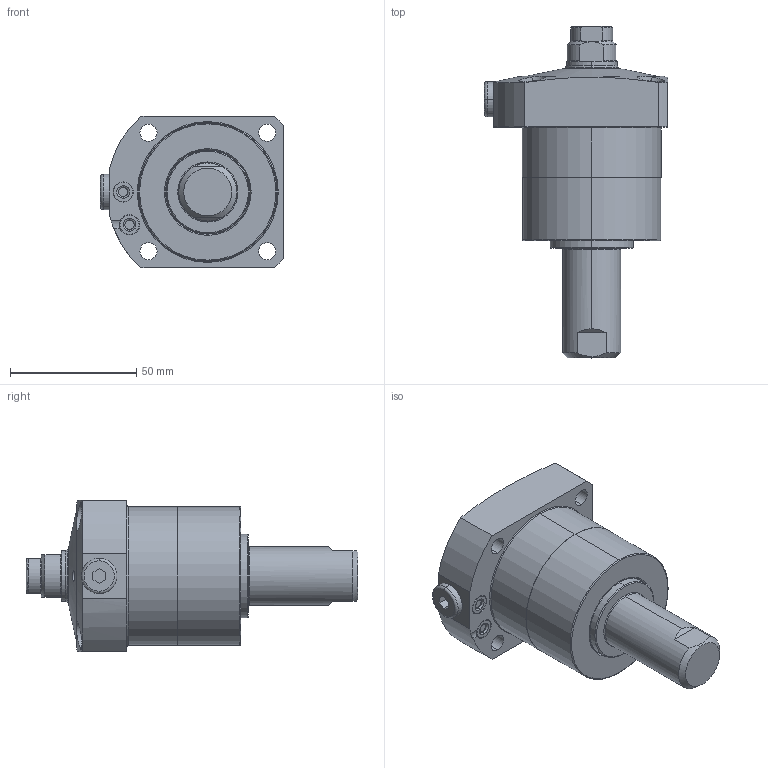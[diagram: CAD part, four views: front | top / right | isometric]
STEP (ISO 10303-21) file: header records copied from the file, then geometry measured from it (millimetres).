
FILE_DESCRIPTION(/* description */ (''),/* implementation_level */ '2;1');
FILE_NAME(/* name */ 'KFSC55-Q.stp',/* time_stamp */ '2026-02-04T15:32:38+08:00',/* author */ (''),/* organization */ (''),/* preprocessor_version */ 'ST-DEVELOPER v16.7',/* originating_system */ 'SIEMENS PLM Software NX 12.0',/* authorisation */ '');
FILE_SCHEMA (('AUTOMOTIVE_DESIGN { 1 0 10303 214 3 1 1 1 }'));
Length unit declared in the file: millimetre
Products named in the file (8): XLC-M12_contactbolt; XLC-M12_o-ring; KFSC55-Q-01; KFSC55-Q-02; KFSC55-Q-04; P5-5; KFSC55-Q-03; LC0553-C-Q_step
Assembly tree (8 placements, depth 3):
  LC0553-C-Q_step
    P5-5  x2
    KFSC55-Q-03
      XLC-M12_o-ring
      XLC-M12_contactbolt
    KFSC55-Q-04
    KFSC55-Q-02
    KFSC55-Q-01
Bounding box: 72.5 x 131.5 x 60 mm (x, y, z)
Volume: 207049.3 mm3; surface area: 32784.3 mm2
Topology: 7 solids, 7 shells, 243 faces, 545 edges, 331 vertices
Faces by surface type: cylinder 81, torus 62, plane 57, cone 41, sphere 2
Entity records: 7074 total; most frequent: CARTESIAN_POINT 1491, DIRECTION 1248, ORIENTED_EDGE 1034, AXIS2_PLACEMENT_3D 542, EDGE_CURVE 517, VERTEX_POINT 317, CIRCLE 302, EDGE_LOOP 262
